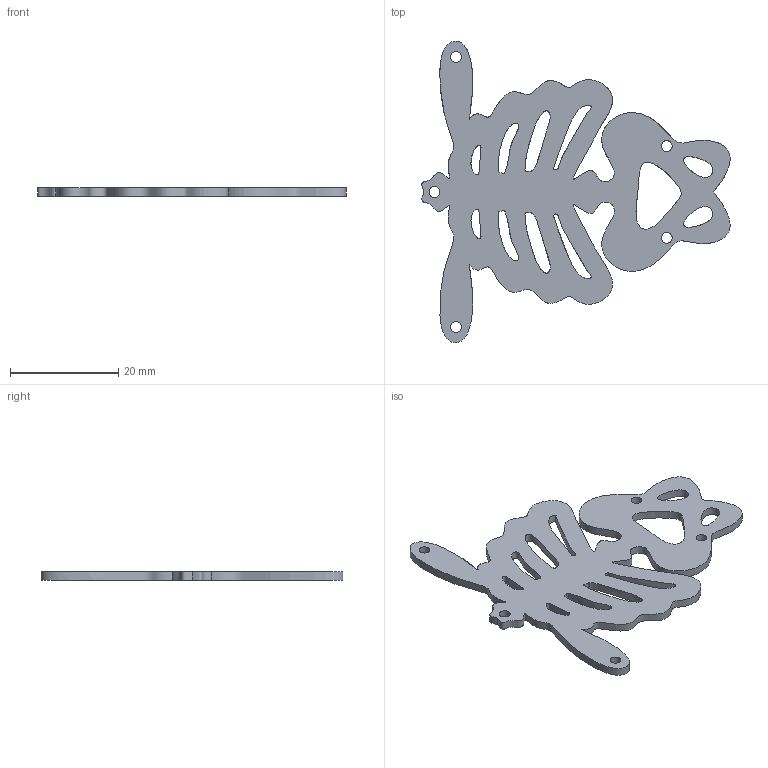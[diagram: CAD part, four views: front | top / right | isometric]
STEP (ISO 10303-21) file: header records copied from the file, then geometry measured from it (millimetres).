
FILE_DESCRIPTION(/* description */ ('','CAx-IF Rec.Pracs.---Representation and Presentation of Product Manufacturing Information (PMI)---4.0---2014-10-13'),/* implementation_level */ '2;1');
FILE_NAME(/* name */ '01_Skelette_Brustkorb v2.step',/* time_stamp */ '2025-01-30T08:35:21+01:00',/* author */ (''),/* organization */ (''),/* preprocessor_version */ 'ST-DEVELOPER v20',/* originating_system */ 'Autodesk Translation Framework v13.20.0.188',/* authorisation */ '');
FILE_SCHEMA (('AP242_MANAGED_MODEL_BASED_3D_ENGINEERING_MIM_LF { 1 0 10303 442 1 1 4 }'));
Length unit declared in the file: millimetre
Products named in the file (1): 01_Skelette_Brustkorb
Bounding box: 57.06 x 55.84 x 1.5 mm (x, y, z)
Volume: 2175.3 mm3; surface area: 3677.4 mm2
Topology: 1 solids, 1 shells, 44 faces, 126 edges, 84 vertices
Faces by surface type: bspline 29, plane 10, cylinder 5
Full cylindrical faces by diameter (mm): 2 x5
Entity records: 4272 total; most frequent: CARTESIAN_POINT 3316, ORIENTED_EDGE 252, EDGE_CURVE 126, VERTEX_POINT 84, DIRECTION 78, EDGE_LOOP 76, B_SPLINE_CURVE_WITH_KNOTS 64, FACE_OUTER_BOUND 44
